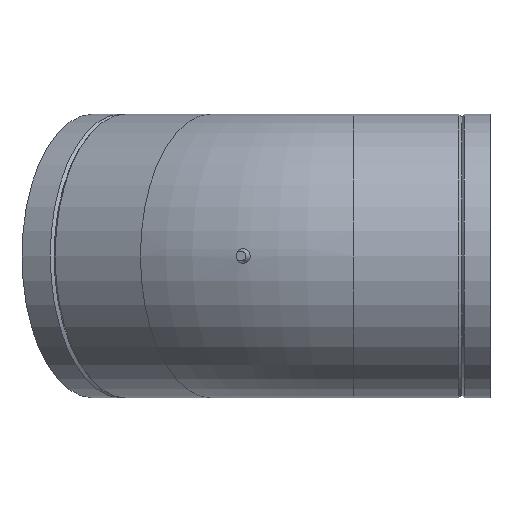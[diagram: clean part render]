
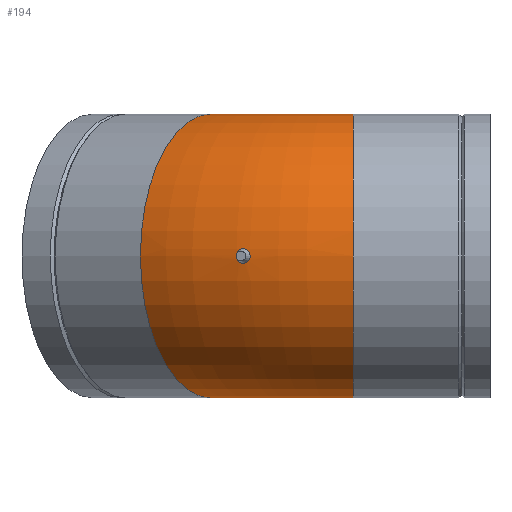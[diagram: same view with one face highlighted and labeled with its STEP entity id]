
A CAD part, left-side view. The second image highlights one B-rep face of the part: STEP entity #194.
In plain terms, the highlighted toroidal (fillet/blend) face has major radius 200 mm and minor radius 100 mm.
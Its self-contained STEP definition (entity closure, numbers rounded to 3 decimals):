
#13=TOROIDAL_SURFACE($,#219,200.,100.);
#27=FACE_BOUND($,#80,.T.);
#28=FACE_BOUND($,#81,.T.);
#45=CIRCLE($,#216,100.);
#47=CIRCLE($,#220,100.);
#61=FACE_OUTER_BOUND($,#79,.T.);
#79=EDGE_LOOP($,(#144));
#80=EDGE_LOOP($,(#145));
#81=EDGE_LOOP($,(#146));
#102=B_SPLINE_CURVE_WITH_KNOTS($,3,(#306,#307,#308,#309,#310,#311,#312,
#313,#314,#315,#316,#317,#318,#319,#320,#321,#322,#323,#324,#325,#326,#327,
#328,#329,#330,#331,#332,#333,#334,#335,#336,#337,#338,#339,#340,#341,#342,
#343,#344,#345,#346,#347,#348,#349),.UNSPECIFIED.,.T.,.F.,(4,2,2,2,2,2,
2,2,2,2,2,2,2,2,2,2,2,2,2,2,2,4),(-3.232,-3.159,-3.055,
-2.873,-2.672,-2.47,-2.276,
-2.092,-1.886,-1.744,-1.656,
-1.58,-1.493,-1.355,-1.158,
-0.956,-0.756,-0.567,-0.389,
-0.185,-0.079,0.),.UNSPECIFIED.);
#103=VERTEX_POINT($,#305);
#108=VERTEX_POINT($,#361);
#110=VERTEX_POINT($,#367);
#119=EDGE_CURVE($,#103,#103,#102,.T.);
#124=EDGE_CURVE($,#108,#108,#45,.T.);
#126=EDGE_CURVE($,#110,#110,#47,.T.);
#144=ORIENTED_EDGE($,*,*,#126,.F.);
#145=ORIENTED_EDGE($,*,*,#119,.T.);
#146=ORIENTED_EDGE($,*,*,#124,.T.);
#194=ADVANCED_FACE($,(#61,#27,#28),#13,.T.);
#216=AXIS2_PLACEMENT_3D($,#362,#257,#258);
#219=AXIS2_PLACEMENT_3D($,#366,#263,#264);
#220=AXIS2_PLACEMENT_3D($,#368,#265,#266);
#257=DIRECTION('center_axis',(-0.5,-0.866,0.));
#258=DIRECTION('ref_axis',(0.866,-0.5,0.));
#263=DIRECTION('center_axis',(0.,0.,-1.));
#264=DIRECTION('ref_axis',(-1.,0.,0.));
#265=DIRECTION('center_axis',(0.,-1.,0.));
#266=DIRECTION('ref_axis',(1.,0.,0.));
#305=CARTESIAN_POINT('',(-88.411,178.99,0.));
#306=CARTESIAN_POINT('Ctrl Pts',(-88.411,178.99,0.));
#307=CARTESIAN_POINT('Ctrl Pts',(-88.411,178.99,0.246));
#308=CARTESIAN_POINT('Ctrl Pts',(-88.415,178.972,0.491));
#309=CARTESIAN_POINT('Ctrl Pts',(-88.433,178.891,1.076));
#310=CARTESIAN_POINT('Ctrl Pts',(-88.452,178.81,1.412));
#311=CARTESIAN_POINT('Ctrl Pts',(-88.525,178.497,2.31));
#312=CARTESIAN_POINT('Ctrl Pts',(-88.595,178.2,2.843));
#313=CARTESIAN_POINT('Ctrl Pts',(-88.786,177.403,3.822));
#314=CARTESIAN_POINT('Ctrl Pts',(-88.91,176.894,4.245));
#315=CARTESIAN_POINT('Ctrl Pts',(-89.199,175.742,4.87));
#316=CARTESIAN_POINT('Ctrl Pts',(-89.361,175.109,5.063));
#317=CARTESIAN_POINT('Ctrl Pts',(-89.698,173.837,5.181));
#318=CARTESIAN_POINT('Ctrl Pts',(-89.868,173.211,5.115));
#319=CARTESIAN_POINT('Ctrl Pts',(-90.192,172.049,4.755));
#320=CARTESIAN_POINT('Ctrl Pts',(-90.343,171.52,4.476));
#321=CARTESIAN_POINT('Ctrl Pts',(-90.631,170.527,3.692));
#322=CARTESIAN_POINT('Ctrl Pts',(-90.762,170.088,3.171));
#323=CARTESIAN_POINT('Ctrl Pts',(-90.929,169.533,2.167));
#324=CARTESIAN_POINT('Ctrl Pts',(-90.981,169.362,1.726));
#325=CARTESIAN_POINT('Ctrl Pts',(-91.036,169.181,0.981));
#326=CARTESIAN_POINT('Ctrl Pts',(-91.05,169.136,0.689));
#327=CARTESIAN_POINT('Ctrl Pts',(-91.062,169.096,0.144));
#328=CARTESIAN_POINT('Ctrl Pts',(-91.062,169.095,-0.108));
#329=CARTESIAN_POINT('Ctrl Pts',(-91.051,169.131,-0.649));
#330=CARTESIAN_POINT('Ctrl Pts',(-91.038,169.174,-0.937));
#331=CARTESIAN_POINT('Ctrl Pts',(-90.986,169.343,-1.666));
#332=CARTESIAN_POINT('Ctrl Pts',(-90.938,169.504,-2.096));
#333=CARTESIAN_POINT('Ctrl Pts',(-90.782,170.021,-3.073));
#334=CARTESIAN_POINT('Ctrl Pts',(-90.66,170.429,-3.582));
#335=CARTESIAN_POINT('Ctrl Pts',(-90.372,171.42,-4.422));
#336=CARTESIAN_POINT('Ctrl Pts',(-90.206,171.997,-4.739));
#337=CARTESIAN_POINT('Ctrl Pts',(-89.862,173.234,-5.122));
#338=CARTESIAN_POINT('Ctrl Pts',(-89.686,173.881,-5.185));
#339=CARTESIAN_POINT('Ctrl Pts',(-89.357,175.128,-5.053));
#340=CARTESIAN_POINT('Ctrl Pts',(-89.205,175.717,-4.873));
#341=CARTESIAN_POINT('Ctrl Pts',(-88.94,176.775,-4.318));
#342=CARTESIAN_POINT('Ctrl Pts',(-88.826,177.24,-3.958));
#343=CARTESIAN_POINT('Ctrl Pts',(-88.622,178.087,-3.029));
#344=CARTESIAN_POINT('Ctrl Pts',(-88.539,178.438,-2.447));
#345=CARTESIAN_POINT('Ctrl Pts',(-88.457,178.791,-1.48));
#346=CARTESIAN_POINT('Ctrl Pts',(-88.436,178.878,-1.136));
#347=CARTESIAN_POINT('Ctrl Pts',(-88.415,178.97,-0.526));
#348=CARTESIAN_POINT('Ctrl Pts',(-88.411,178.99,-0.263));
#349=CARTESIAN_POINT('Ctrl Pts',(-88.411,178.99,0.));
#361=CARTESIAN_POINT('',(-59.808,246.41,0.));
#362=CARTESIAN_POINT('Origin',(26.795,196.41,0.));
#366=CARTESIAN_POINT('Origin',(200.,96.41,0.));
#367=CARTESIAN_POINT('',(-100.,96.41,0.));
#368=CARTESIAN_POINT('Origin',(0.,96.41,0.));
